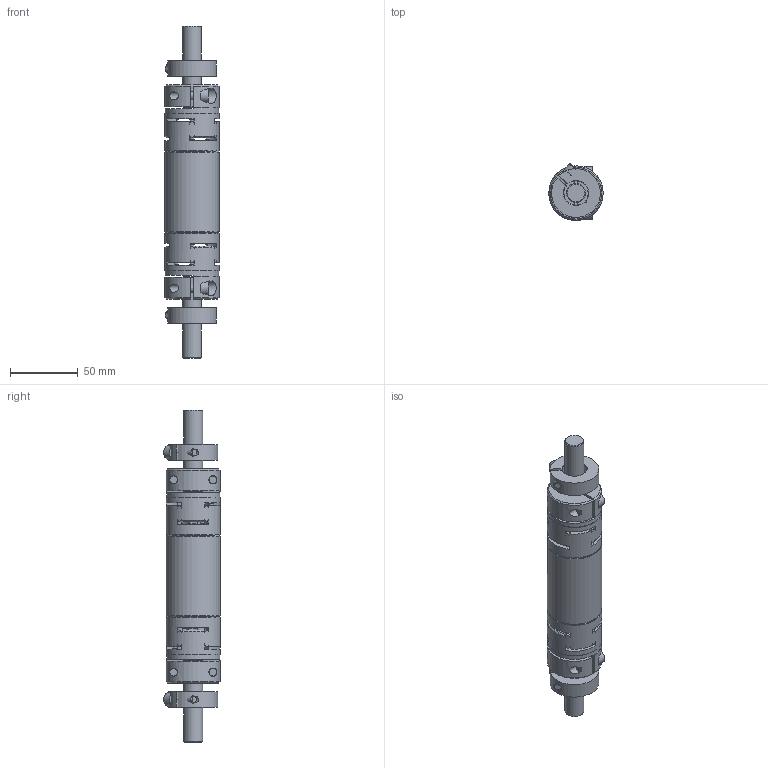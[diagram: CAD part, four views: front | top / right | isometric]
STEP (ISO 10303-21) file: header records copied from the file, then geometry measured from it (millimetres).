
FILE_DESCRIPTION(/* description */ ('Connecting shaft HLR080 - double axis distance = 250mm'),/* implementation_level */ '2;1');
FILE_NAME(/* name */ 'D:\InventorWorkspace2017\CAD\Projekte_EDEM\HLR\Zubehörteile\0242910-0250.stp',/* time_stamp */ '2019-02-13T11:17:43+01:00',/* author */ ('544672'),/* organization */ (''),/* preprocessor_version */ 'ST-DEVELOPER v16.5',/* originating_system */ 'Autodesk Inventor 2017',/* authorisation */ '');
FILE_SCHEMA (('AUTOMOTIVE_DESIGN { 1 0 10303 214 3 1 1 }'));
Length unit declared in the file: millimetre
Products named in the file (8): 0242.910-0250; 0241910-XXXX; ROTEX GS19 ZR3_Rohr_1; ROTEX GS19 ZR3_Klemmnabe D14; 0242007-02; 0241914; 0241012; 130-302345
Assembly tree (11 placements, depth 3):
  0242.910-0250
    0241910-XXXX
      ROTEX GS19 ZR3_Klemmnabe D14  x2
      ROTEX GS19 ZR3_Rohr_1
    0242007-02
      0241914  x2
      0241012  x2
      130-302345  x2
Bounding box: 40 x 41.78 x 245 mm (x, y, z)
Volume: 147204 mm3; surface area: 65965.4 mm2
Topology: 9 solids, 9 shells, 424 faces, 1188 edges, 790 vertices
Faces by surface type: cylinder 176, plane 154, cone 90, torus 4
Full cylindrical faces by diameter (mm): 3 x12, 4.917 x2, 6 x6, 6.4 x2, 6.6 x8, 10 x6, 14 x4, 18 x4, 22 x2, 34 x1, 39.4 x2, 40 x3
Entity records: 7305 total; most frequent: CARTESIAN_POINT 1526, DIRECTION 1269, ORIENTED_EDGE 1082, EDGE_CURVE 541, AXIS2_PLACEMENT_3D 540, VERTEX_POINT 383, EDGE_LOOP 294, CIRCLE 291
